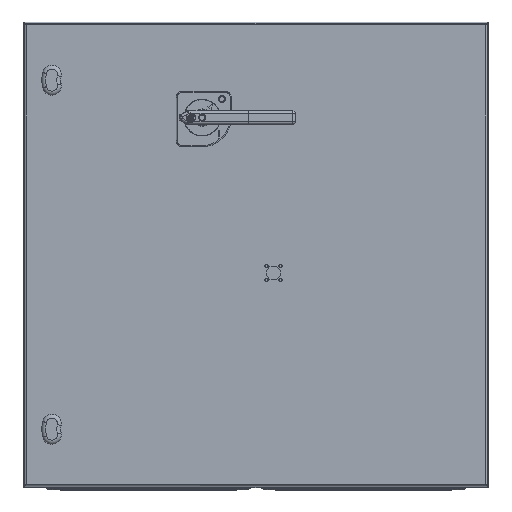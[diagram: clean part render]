
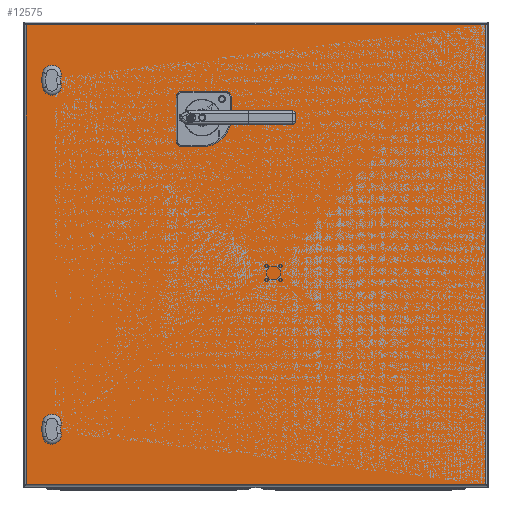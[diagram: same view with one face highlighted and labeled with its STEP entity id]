
A CAD part, top view. The second image highlights one B-rep face of the part: STEP entity #12575.
In plain terms, the highlighted planar face has unit normal (0, 0, 1).
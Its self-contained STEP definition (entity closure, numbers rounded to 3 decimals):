
#7743=LINE('',#48588,#9652);
#7744=LINE('',#48592,#9653);
#7745=LINE('',#48596,#9654);
#7746=LINE('',#48600,#9655);
#7747=LINE('',#48604,#9656);
#7748=LINE('',#48608,#9657);
#7749=LINE('',#48612,#9658);
#7750=LINE('',#48616,#9659);
#7751=LINE('',#48617,#9660);
#7752=LINE('',#48620,#9661);
#7753=LINE('',#48622,#9662);
#7754=LINE('',#48624,#9663);
#9652=VECTOR('',#39138,1.);
#9653=VECTOR('',#39141,1.);
#9654=VECTOR('',#39144,1.);
#9655=VECTOR('',#39147,1.);
#9656=VECTOR('',#39150,1.);
#9657=VECTOR('',#39153,1.);
#9658=VECTOR('',#39156,1.);
#9659=VECTOR('',#39159,1.);
#9660=VECTOR('',#39160,1.);
#9661=VECTOR('',#39161,1.);
#9662=VECTOR('',#39162,1.);
#9663=VECTOR('',#39163,1.);
#10697=PLANE('',#32791);
#12575=ADVANCED_FACE('',(#13922,#13923,#13924),#10697,.T.);
#13922=FACE_BOUND('',#16099,.T.);
#13923=FACE_BOUND('',#16100,.T.);
#13924=FACE_BOUND('',#16101,.T.);
#16099=EDGE_LOOP('',(#21793,#21794,#21795,#21796,#21797,#21798,#21799,#21800));
#16100=EDGE_LOOP('',(#21801,#21802,#21803,#21804,#21805,#21806,#21807,#21808));
#16101=EDGE_LOOP('',(#21809,#21810,#21811,#21812));
#21793=ORIENTED_EDGE('',*,*,#28648,.F.);
#21794=ORIENTED_EDGE('',*,*,#28649,.F.);
#21795=ORIENTED_EDGE('',*,*,#28650,.F.);
#21796=ORIENTED_EDGE('',*,*,#28651,.F.);
#21797=ORIENTED_EDGE('',*,*,#28652,.F.);
#21798=ORIENTED_EDGE('',*,*,#28653,.F.);
#21799=ORIENTED_EDGE('',*,*,#28654,.F.);
#21800=ORIENTED_EDGE('',*,*,#28655,.F.);
#21801=ORIENTED_EDGE('',*,*,#28656,.F.);
#21802=ORIENTED_EDGE('',*,*,#28657,.F.);
#21803=ORIENTED_EDGE('',*,*,#28658,.F.);
#21804=ORIENTED_EDGE('',*,*,#28659,.F.);
#21805=ORIENTED_EDGE('',*,*,#28660,.F.);
#21806=ORIENTED_EDGE('',*,*,#28661,.F.);
#21807=ORIENTED_EDGE('',*,*,#28662,.F.);
#21808=ORIENTED_EDGE('',*,*,#28663,.F.);
#21809=ORIENTED_EDGE('',*,*,#28664,.T.);
#21810=ORIENTED_EDGE('',*,*,#28665,.T.);
#21811=ORIENTED_EDGE('',*,*,#28666,.T.);
#21812=ORIENTED_EDGE('',*,*,#28667,.T.);
#25512=VERTEX_POINT('',#48586);
#25513=VERTEX_POINT('',#48587);
#25514=VERTEX_POINT('',#48589);
#25515=VERTEX_POINT('',#48591);
#25516=VERTEX_POINT('',#48593);
#25517=VERTEX_POINT('',#48595);
#25518=VERTEX_POINT('',#48597);
#25519=VERTEX_POINT('',#48599);
#25520=VERTEX_POINT('',#48602);
#25521=VERTEX_POINT('',#48603);
#25522=VERTEX_POINT('',#48605);
#25523=VERTEX_POINT('',#48607);
#25524=VERTEX_POINT('',#48609);
#25525=VERTEX_POINT('',#48611);
#25526=VERTEX_POINT('',#48613);
#25527=VERTEX_POINT('',#48615);
#25528=VERTEX_POINT('',#48618);
#25529=VERTEX_POINT('',#48619);
#25530=VERTEX_POINT('',#48621);
#25531=VERTEX_POINT('',#48623);
#28648=EDGE_CURVE('',#25512,#25513,#30372,.T.);
#28649=EDGE_CURVE('',#25514,#25512,#7743,.T.);
#28650=EDGE_CURVE('',#25515,#25514,#30373,.T.);
#28651=EDGE_CURVE('',#25516,#25515,#7744,.T.);
#28652=EDGE_CURVE('',#25517,#25516,#30374,.T.);
#28653=EDGE_CURVE('',#25518,#25517,#7745,.T.);
#28654=EDGE_CURVE('',#25519,#25518,#30375,.T.);
#28655=EDGE_CURVE('',#25513,#25519,#7746,.T.);
#28656=EDGE_CURVE('',#25520,#25521,#30376,.T.);
#28657=EDGE_CURVE('',#25522,#25520,#7747,.T.);
#28658=EDGE_CURVE('',#25523,#25522,#30377,.T.);
#28659=EDGE_CURVE('',#25524,#25523,#7748,.T.);
#28660=EDGE_CURVE('',#25525,#25524,#30378,.T.);
#28661=EDGE_CURVE('',#25526,#25525,#7749,.T.);
#28662=EDGE_CURVE('',#25527,#25526,#30379,.T.);
#28663=EDGE_CURVE('',#25521,#25527,#7750,.T.);
#28664=EDGE_CURVE('',#25528,#25529,#7751,.T.);
#28665=EDGE_CURVE('',#25529,#25530,#7752,.T.);
#28666=EDGE_CURVE('',#25530,#25531,#7753,.T.);
#28667=EDGE_CURVE('',#25531,#25528,#7754,.T.);
#30372=CIRCLE('',#32783,11.25);
#30373=CIRCLE('',#32784,11.25);
#30374=CIRCLE('',#32785,11.25);
#30375=CIRCLE('',#32786,11.25);
#30376=CIRCLE('',#32787,11.25);
#30377=CIRCLE('',#32788,11.25);
#30378=CIRCLE('',#32789,11.25);
#30379=CIRCLE('',#32790,11.25);
#32783=AXIS2_PLACEMENT_3D('',#48585,#39136,#39137);
#32784=AXIS2_PLACEMENT_3D('',#48590,#39139,#39140);
#32785=AXIS2_PLACEMENT_3D('',#48594,#39142,#39143);
#32786=AXIS2_PLACEMENT_3D('',#48598,#39145,#39146);
#32787=AXIS2_PLACEMENT_3D('',#48601,#39148,#39149);
#32788=AXIS2_PLACEMENT_3D('',#48606,#39151,#39152);
#32789=AXIS2_PLACEMENT_3D('',#48610,#39154,#39155);
#32790=AXIS2_PLACEMENT_3D('',#48614,#39157,#39158);
#32791=AXIS2_PLACEMENT_3D('',#48625,#39164,#39165);
#39136=DIRECTION('',(0.,0.,1.));
#39137=DIRECTION('',(1.,0.,0.));
#39138=DIRECTION('',(0.,-1.,0.));
#39139=DIRECTION('',(0.,0.,1.));
#39140=DIRECTION('',(-1.,0.,0.));
#39141=DIRECTION('',(-1.,0.,0.));
#39142=DIRECTION('',(0.,0.,1.));
#39143=DIRECTION('',(-1.,0.,0.));
#39144=DIRECTION('',(0.,1.,0.));
#39145=DIRECTION('',(0.,0.,1.));
#39146=DIRECTION('',(1.,0.,0.));
#39147=DIRECTION('',(1.,0.,0.));
#39148=DIRECTION('',(0.,0.,1.));
#39149=DIRECTION('',(1.,0.,0.));
#39150=DIRECTION('',(1.,0.,0.));
#39151=DIRECTION('',(0.,0.,1.));
#39152=DIRECTION('',(1.,0.,0.));
#39153=DIRECTION('',(0.,-1.,0.));
#39154=DIRECTION('',(0.,0.,1.));
#39155=DIRECTION('',(-1.,0.,0.));
#39156=DIRECTION('',(-1.,0.,0.));
#39157=DIRECTION('',(0.,0.,1.));
#39158=DIRECTION('',(-1.,0.,0.));
#39159=DIRECTION('',(0.,1.,0.));
#39160=DIRECTION('',(0.,1.,0.));
#39161=DIRECTION('',(-1.,0.,0.));
#39162=DIRECTION('',(0.,-1.,0.));
#39163=DIRECTION('',(1.,0.,0.));
#39164=DIRECTION('',(0.,0.,1.));
#39165=DIRECTION('',(-1.,0.,0.));
#48585=CARTESIAN_POINT('',(-351.,100.,190.95));
#48586=CARTESIAN_POINT('',(-361.05,94.944,190.95));
#48587=CARTESIAN_POINT('',(-356.056,89.95,190.95));
#48588=CARTESIAN_POINT('',(-361.05,105.056,190.95));
#48589=CARTESIAN_POINT('',(-361.05,105.056,190.95));
#48590=CARTESIAN_POINT('',(-351.,100.,190.95));
#48591=CARTESIAN_POINT('',(-356.056,110.05,190.95));
#48592=CARTESIAN_POINT('',(-345.944,110.05,190.95));
#48593=CARTESIAN_POINT('',(-345.944,110.05,190.95));
#48594=CARTESIAN_POINT('',(-351.,100.,190.95));
#48595=CARTESIAN_POINT('',(-340.95,105.056,190.95));
#48596=CARTESIAN_POINT('',(-340.95,105.056,190.95));
#48597=CARTESIAN_POINT('',(-340.95,94.944,190.95));
#48598=CARTESIAN_POINT('',(-351.,100.,190.95));
#48599=CARTESIAN_POINT('',(-345.944,89.95,190.95));
#48600=CARTESIAN_POINT('',(-356.056,89.95,190.95));
#48601=CARTESIAN_POINT('',(-351.,-500.,190.95));
#48602=CARTESIAN_POINT('',(-345.944,-510.05,190.95));
#48603=CARTESIAN_POINT('',(-340.95,-505.056,190.95));
#48604=CARTESIAN_POINT('',(-345.944,-510.05,190.95));
#48605=CARTESIAN_POINT('',(-356.056,-510.05,190.95));
#48606=CARTESIAN_POINT('',(-351.,-500.,190.95));
#48607=CARTESIAN_POINT('',(-361.05,-505.056,190.95));
#48608=CARTESIAN_POINT('',(-361.05,105.056,190.95));
#48609=CARTESIAN_POINT('',(-361.05,-494.944,190.95));
#48610=CARTESIAN_POINT('',(-351.,-500.,190.95));
#48611=CARTESIAN_POINT('',(-356.056,-489.95,190.95));
#48612=CARTESIAN_POINT('',(-356.056,-489.95,190.95));
#48613=CARTESIAN_POINT('',(-345.944,-489.95,190.95));
#48614=CARTESIAN_POINT('',(-351.,-500.,190.95));
#48615=CARTESIAN_POINT('',(-340.95,-494.944,190.95));
#48616=CARTESIAN_POINT('',(-340.95,105.056,190.95));
#48617=CARTESIAN_POINT('',(395.,197.5,190.95));
#48618=CARTESIAN_POINT('',(395.,-595.,190.95));
#48619=CARTESIAN_POINT('',(395.,195.,190.95));
#48620=CARTESIAN_POINT('',(-397.5,195.,190.95));
#48621=CARTESIAN_POINT('',(-395.,195.,190.95));
#48622=CARTESIAN_POINT('',(-395.,-597.5,190.95));
#48623=CARTESIAN_POINT('',(-395.,-595.,190.95));
#48624=CARTESIAN_POINT('',(397.5,-595.,190.95));
#48625=CARTESIAN_POINT('',(-397.5,197.5,190.95));
